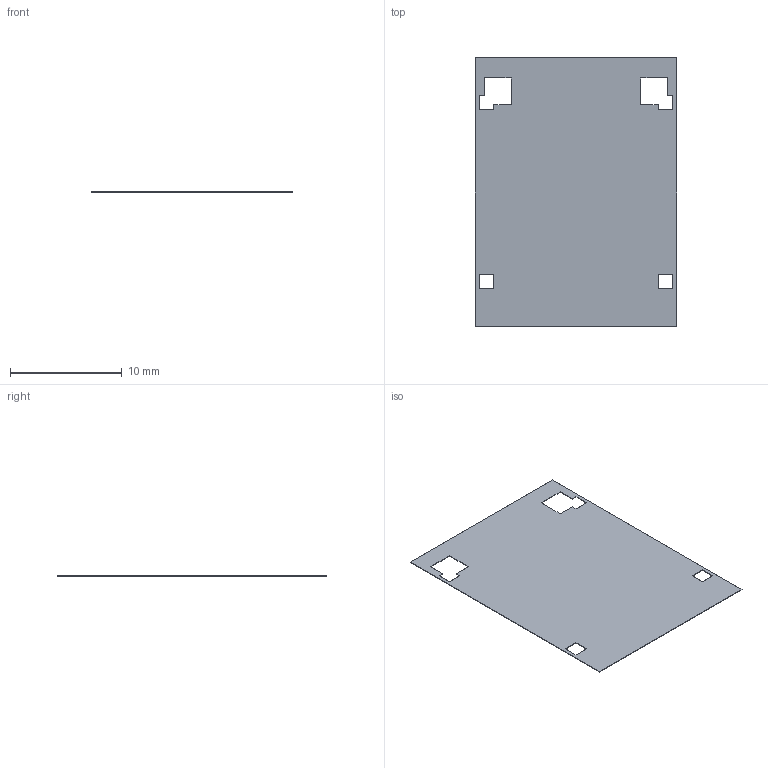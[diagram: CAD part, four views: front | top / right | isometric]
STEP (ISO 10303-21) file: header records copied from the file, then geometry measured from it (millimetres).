
FILE_DESCRIPTION(('Open CASCADE Model'),'2;1');
FILE_NAME('Open CASCADE Shape Model','2026-09-13T17:41:40',('Author'),( 'Open CASCADE'),'Open CASCADE STEP processor 7.8','Open CASCADE 7.8' ,'Unknown');
FILE_SCHEMA(('AUTOMOTIVE_DESIGN { 1 0 10303 214 1 1 1 1 }'));
Length unit declared in the file: millimetre
Products named in the file (1): Open CASCADE STEP translator 7.8 19
Bounding box: 18 x 24 x 0.05 mm (x, y, z)
Volume: 20.7 mm3; surface area: 835.9 mm2
Topology: 1 solids, 1 shells, 30 faces, 84 edges, 56 vertices
Faces by surface type: plane 30
Entity records: 2066 total; most frequent: CARTESIAN_POINT 339, DIRECTION 314, LINE 252, VECTOR 252, ORIENTED_EDGE 168, PCURVE 168, DEFINITIONAL_REPRESENTATION 168, EDGE_CURVE 84
